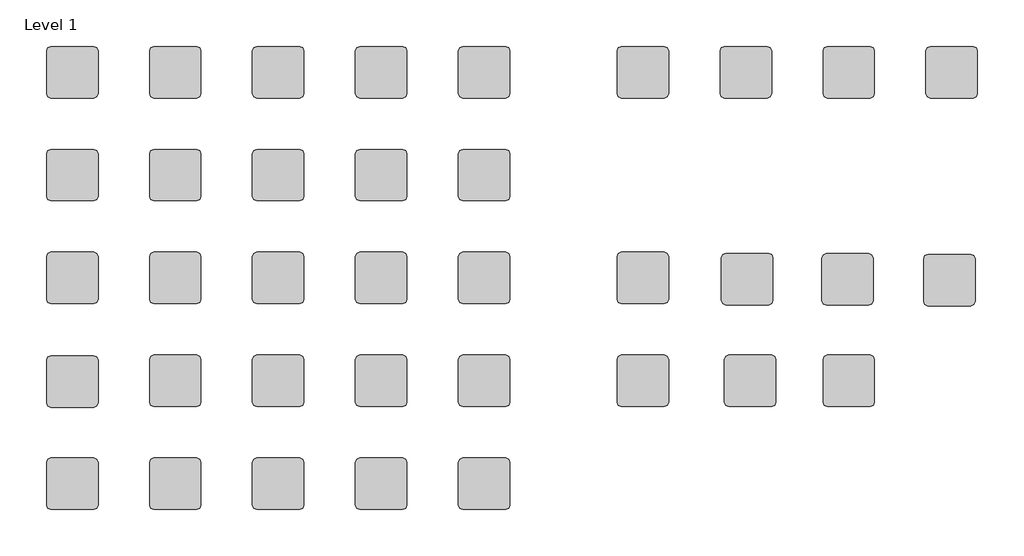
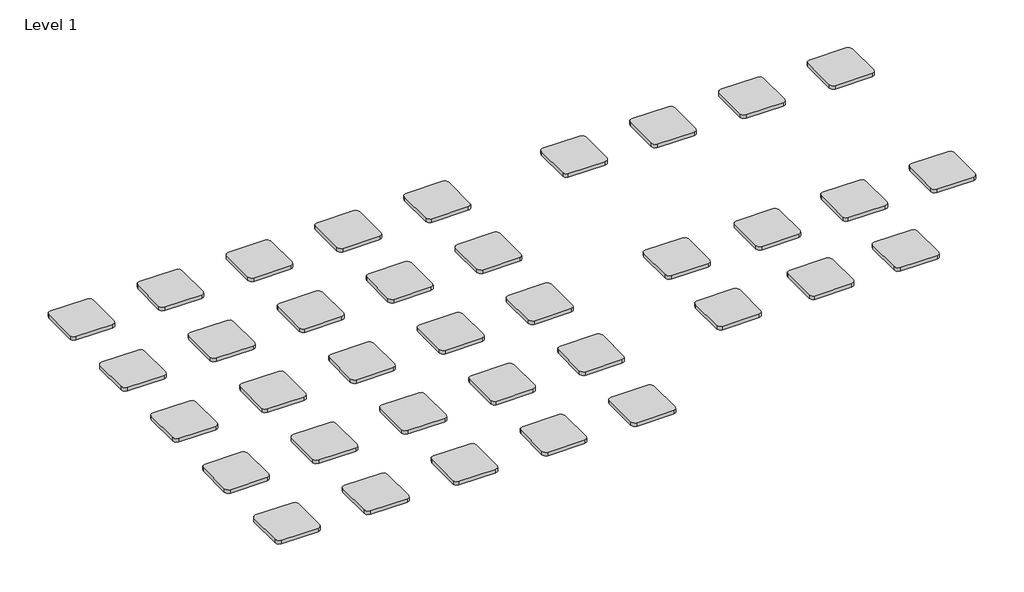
# One storey: 36 proxies.
"""IFC4 building model written with IfcOpenShell, lengths in millimetres."""

from ifc_helpers import new_model, si_unit, origin, place, context, project, spatial, transform, mapped, element, save
from components import finish_host1_finish_host_6c8288fe, finish_host10_finish_host_a3397b89, finish_host11_finish_host_3af49a93, finish_host12_finish_host_35fb9fcd, finish_host13_finish_host_149cf516, finish_host14_finish_host_65f983b4, finish_host15_finish_host_9cf1034e, finish_host16_finish_host_6ca5a889, finish_host17_finish_host_9b003aed, finish_host18_finish_host_26ebec59, finish_host19_finish_host_efa92566, finish_host2_finish_host_9f574f8e, finish_host20_finish_host_8dbecde8, finish_host21_finish_host_b409f199, finish_host22_finish_host_cf7aacde, finish_host23_finish_host_5e606281, finish_host24_finish_host_937658bf, finish_host25_finish_host_878b78e8, finish_host26_finish_host_fe2e111e, finish_host27_finish_host_97b71195, finish_host28_finish_host_5dfcda00, finish_host29_finish_host_c5cb782f, finish_host3_finish_host_6cfe361c, finish_host31_finish_host_bcdf27ec, finish_host34_finish_host_d116e8a5, finish_host35_finish_host_9bd3dcf6, finish_host36_finish_host_0f730452, finish_host4_finish_host_66b54ad6, finish_host5_finish_host_d23c74cd, finish_host6_finish_host_95f67b8d, finish_host8_finish_host_4df69d28, finish_host9_finish_host_c5e91da6

model = new_model("IFC4")

# Units and contexts
model_context = context("Model", 3, world=origin())
ifc_project = project(units=[si_unit("LENGTHUNIT", "METRE", prefix="MILLI")], contexts=[model_context])

# Site, building, storey
site = spatial("IfcSite", under=ifc_project)
building = spatial("IfcBuilding", under=site)
storey = spatial("IfcBuildingStorey", under=building, Name="Level 1", Elevation=0.0)

# Proxies
placement = place(None, origin())
finish_host1_finish_host_shape = finish_host1_finish_host_6c8288fe(model_context)
element("IfcBuildingElementProxy", 1, Name="Finish Host1 : Finish Host", ObjectType="Finish Host1 : Finish Host", at=placement, inside=storey, context=model_context, shape_type="MappedRepresentation", body=[
    mapped(finish_host1_finish_host_shape, transform((0.0, -304.8, 0.0), x_axis=(1.0, 0.0, 0.0), y_axis=(0.0, 1.0, 0.0), z_axis=(0.0, 0.0, 1.0))),
])
finish_host10_finish_host_shape = finish_host10_finish_host_a3397b89(model_context)
element("IfcBuildingElementProxy", 2, Name="Finish Host10 : Finish Host", ObjectType="Finish Host10 : Finish Host", at=placement, inside=storey, context=model_context, shape_type="MappedRepresentation", body=[
    mapped(finish_host10_finish_host_shape, transform((0.0, -304.8, 0.0), x_axis=(1.0, 0.0, 0.0), y_axis=(0.0, 1.0, 0.0), z_axis=(0.0, 0.0, 1.0))),
])
finish_host11_finish_host_shape = finish_host11_finish_host_3af49a93(model_context)
element("IfcBuildingElementProxy", 3, Name="Finish Host11 : Finish Host", ObjectType="Finish Host11 : Finish Host", at=placement, inside=storey, context=model_context, shape_type="MappedRepresentation", body=[
    mapped(finish_host11_finish_host_shape, transform((0.0, -304.8, 0.0), x_axis=(1.0, 0.0, 0.0), y_axis=(0.0, 1.0, 0.0), z_axis=(0.0, 0.0, 1.0))),
])
finish_host12_finish_host_shape = finish_host12_finish_host_35fb9fcd(model_context)
element("IfcBuildingElementProxy", 4, Name="Finish Host12 : Finish Host", ObjectType="Finish Host12 : Finish Host", at=placement, inside=storey, context=model_context, shape_type="MappedRepresentation", body=[
    mapped(finish_host12_finish_host_shape, transform((0.0, -304.8, 0.0), x_axis=(1.0, 0.0, 0.0), y_axis=(0.0, 1.0, 0.0), z_axis=(0.0, 0.0, 1.0))),
])
finish_host13_finish_host_shape = finish_host13_finish_host_149cf516(model_context)
element("IfcBuildingElementProxy", 5, Name="Finish Host13 : Finish Host", ObjectType="Finish Host13 : Finish Host", at=placement, inside=storey, context=model_context, shape_type="MappedRepresentation", body=[
    mapped(finish_host13_finish_host_shape, transform((0.0, -304.8, 0.0), x_axis=(1.0, 0.0, 0.0), y_axis=(0.0, 1.0, 0.0), z_axis=(0.0, 0.0, 1.0))),
])
finish_host14_finish_host_shape = finish_host14_finish_host_65f983b4(model_context)
element("IfcBuildingElementProxy", 6, Name="Finish Host14 : Finish Host", ObjectType="Finish Host14 : Finish Host", at=placement, inside=storey, context=model_context, shape_type="MappedRepresentation", body=[
    mapped(finish_host14_finish_host_shape, transform((0.0, -304.8, 0.0), x_axis=(1.0, 0.0, 0.0), y_axis=(0.0, 1.0, 0.0), z_axis=(0.0, 0.0, 1.0))),
])
finish_host15_finish_host_shape = finish_host15_finish_host_9cf1034e(model_context)
element("IfcBuildingElementProxy", 7, Name="Finish Host15 : Finish Host", ObjectType="Finish Host15 : Finish Host", at=placement, inside=storey, context=model_context, shape_type="MappedRepresentation", body=[
    mapped(finish_host15_finish_host_shape, transform((0.0, -304.8, 0.0), x_axis=(1.0, 0.0, 0.0), y_axis=(0.0, 1.0, 0.0), z_axis=(0.0, 0.0, 1.0))),
])
finish_host16_finish_host_shape = finish_host16_finish_host_6ca5a889(model_context)
element("IfcBuildingElementProxy", 8, Name="Finish Host16 : Finish Host", ObjectType="Finish Host16 : Finish Host", at=placement, inside=storey, context=model_context, shape_type="MappedRepresentation", body=[
    mapped(finish_host16_finish_host_shape, transform((5192.8305006, 291.3555964, 0.0), x_axis=(1.0, 0.0, 0.0), y_axis=(0.0, 1.0, 0.0), z_axis=(0.0, 0.0, 1.0))),
])
finish_host17_finish_host_shape = finish_host17_finish_host_9b003aed(model_context)
element("IfcBuildingElementProxy", 9, Name="Finish Host17 : Finish Host", ObjectType="Finish Host17 : Finish Host", at=placement, inside=storey, context=model_context, shape_type="MappedRepresentation", body=[
    mapped(finish_host17_finish_host_shape, transform((0.0, -304.8, 0.0), x_axis=(1.0, 0.0, 0.0), y_axis=(0.0, 1.0, 0.0), z_axis=(0.0, 0.0, 1.0))),
])
finish_host18_finish_host_shape = finish_host18_finish_host_26ebec59(model_context)
element("IfcBuildingElementProxy", 10, Name="Finish Host18 : Finish Host", ObjectType="Finish Host18 : Finish Host", at=placement, inside=storey, context=model_context, shape_type="MappedRepresentation", body=[
    mapped(finish_host18_finish_host_shape, transform((0.0, -304.8, 0.0), x_axis=(1.0, 0.0, 0.0), y_axis=(0.0, 1.0, 0.0), z_axis=(0.0, 0.0, 1.0))),
])
finish_host19_finish_host_shape = finish_host19_finish_host_efa92566(model_context)
element("IfcBuildingElementProxy", 11, Name="Finish Host19 : Finish Host", ObjectType="Finish Host19 : Finish Host", at=placement, inside=storey, context=model_context, shape_type="MappedRepresentation", body=[
    mapped(finish_host19_finish_host_shape, transform((0.0, -304.8, 0.0), x_axis=(1.0, 0.0, 0.0), y_axis=(0.0, 1.0, 0.0), z_axis=(0.0, 0.0, 1.0))),
])
finish_host2_finish_host_shape = finish_host2_finish_host_9f574f8e(model_context)
element("IfcBuildingElementProxy", 12, Name="Finish Host2 : Finish Host", ObjectType="Finish Host2 : Finish Host", at=placement, inside=storey, context=model_context, shape_type="MappedRepresentation", body=[
    mapped(finish_host2_finish_host_shape, transform((0.0, -304.8, 0.0), x_axis=(1.0, 0.0, 0.0), y_axis=(0.0, 1.0, 0.0), z_axis=(0.0, 0.0, 1.0))),
])
finish_host20_finish_host_shape = finish_host20_finish_host_8dbecde8(model_context)
element("IfcBuildingElementProxy", 13, Name="Finish Host20 : Finish Host", ObjectType="Finish Host20 : Finish Host", at=placement, inside=storey, context=model_context, shape_type="MappedRepresentation", body=[
    mapped(finish_host20_finish_host_shape, transform((0.0, -304.8, 0.0), x_axis=(1.0, 0.0, 0.0), y_axis=(0.0, 1.0, 0.0), z_axis=(0.0, 0.0, 1.0))),
])
finish_host21_finish_host_shape = finish_host21_finish_host_b409f199(model_context)
element("IfcBuildingElementProxy", 14, Name="Finish Host21 : Finish Host", ObjectType="Finish Host21 : Finish Host", at=placement, inside=storey, context=model_context, shape_type="MappedRepresentation", body=[
    mapped(finish_host21_finish_host_shape, transform((0.0, -304.8, 0.0), x_axis=(1.0, 0.0, 0.0), y_axis=(0.0, 1.0, 0.0), z_axis=(0.0, 0.0, 1.0))),
])
finish_host22_finish_host_shape = finish_host22_finish_host_cf7aacde(model_context)
element("IfcBuildingElementProxy", 15, Name="Finish Host22 : Finish Host", ObjectType="Finish Host22 : Finish Host", at=placement, inside=storey, context=model_context, shape_type="MappedRepresentation", body=[
    mapped(finish_host22_finish_host_shape, transform((0.0, -304.8, 0.0), x_axis=(1.0, 0.0, 0.0), y_axis=(0.0, 1.0, 0.0), z_axis=(0.0, 0.0, 1.0))),
])
finish_host23_finish_host_shape = finish_host23_finish_host_5e606281(model_context)
element("IfcBuildingElementProxy", 16, Name="Finish Host23 : Finish Host", ObjectType="Finish Host23 : Finish Host", at=placement, inside=storey, context=model_context, shape_type="MappedRepresentation", body=[
    mapped(finish_host23_finish_host_shape, transform((0.0, -304.8, 0.0), x_axis=(1.0, 0.0, 0.0), y_axis=(0.0, 1.0, 0.0), z_axis=(0.0, 0.0, 1.0))),
])
finish_host24_finish_host_shape = finish_host24_finish_host_937658bf(model_context)
element("IfcBuildingElementProxy", 17, Name="Finish Host24 : Finish Host", ObjectType="Finish Host24 : Finish Host", at=placement, inside=storey, context=model_context, shape_type="MappedRepresentation", body=[
    mapped(finish_host24_finish_host_shape, transform((0.0, -304.8, 0.0), x_axis=(1.0, 0.0, 0.0), y_axis=(0.0, 1.0, 0.0), z_axis=(0.0, 0.0, 1.0))),
])
finish_host25_finish_host_shape = finish_host25_finish_host_878b78e8(model_context)
element("IfcBuildingElementProxy", 18, Name="Finish Host25 : Finish Host", ObjectType="Finish Host25 : Finish Host", at=placement, inside=storey, context=model_context, shape_type="MappedRepresentation", body=[
    mapped(finish_host25_finish_host_shape, transform((0.0, -304.8, 0.0), x_axis=(1.0, 0.0, 0.0), y_axis=(0.0, 1.0, 0.0), z_axis=(0.0, 0.0, 1.0))),
])
finish_host26_finish_host_shape = finish_host26_finish_host_fe2e111e(model_context)
element("IfcBuildingElementProxy", 19, Name="Finish Host26 : Finish Host", ObjectType="Finish Host26 : Finish Host", at=placement, inside=storey, context=model_context, shape_type="MappedRepresentation", body=[
    mapped(finish_host26_finish_host_shape, transform((0.0, -304.8, 0.0), x_axis=(1.0, 0.0, 0.0), y_axis=(0.0, 1.0, 0.0), z_axis=(0.0, 0.0, 1.0))),
])
finish_host27_finish_host_shape = finish_host27_finish_host_97b71195(model_context)
element("IfcBuildingElementProxy", 20, Name="Finish Host27 : Finish Host", ObjectType="Finish Host27 : Finish Host", at=placement, inside=storey, context=model_context, shape_type="MappedRepresentation", body=[
    mapped(finish_host27_finish_host_shape, transform((0.0, -304.8, 0.0), x_axis=(1.0, 0.0, 0.0), y_axis=(0.0, 1.0, 0.0), z_axis=(0.0, 0.0, 1.0))),
])
finish_host28_finish_host_shape = finish_host28_finish_host_5dfcda00(model_context)
element("IfcBuildingElementProxy", 21, Name="Finish Host28 : Finish Host", ObjectType="Finish Host28 : Finish Host", at=placement, inside=storey, context=model_context, shape_type="MappedRepresentation", body=[
    mapped(finish_host28_finish_host_shape, transform((0.0, -304.8, 0.0), x_axis=(1.0, 0.0, 0.0), y_axis=(0.0, 1.0, 0.0), z_axis=(0.0, 0.0, 1.0))),
])
finish_host29_finish_host_shape = finish_host29_finish_host_c5cb782f(model_context)
element("IfcBuildingElementProxy", 22, Name="Finish Host29 : Finish Host", ObjectType="Finish Host29 : Finish Host", at=placement, inside=storey, context=model_context, shape_type="MappedRepresentation", body=[
    mapped(finish_host29_finish_host_shape, transform((0.0, -304.8, 0.0), x_axis=(1.0, 0.0, 0.0), y_axis=(0.0, 1.0, 0.0), z_axis=(0.0, 0.0, 1.0))),
])
finish_host3_finish_host_shape = finish_host3_finish_host_6cfe361c(model_context)
element("IfcBuildingElementProxy", 23, Name="Finish Host3 : Finish Host", ObjectType="Finish Host3 : Finish Host", at=placement, inside=storey, context=model_context, shape_type="MappedRepresentation", body=[
    mapped(finish_host3_finish_host_shape, transform((0.0, -304.8, 0.0), x_axis=(1.0, 0.0, 0.0), y_axis=(0.0, 1.0, 0.0), z_axis=(0.0, 0.0, 1.0))),
])
element("IfcBuildingElementProxy", 24, Name="Finish Host30 : Finish Host", ObjectType="Finish Host30 : Finish Host", at=placement, inside=storey, context=model_context, shape_type="MappedRepresentation", body=[
    mapped(finish_host13_finish_host_shape, transform((2159.0, -304.8, 0.0), x_axis=(1.0, 0.0, 0.0), y_axis=(0.0, 1.0, 0.0), z_axis=(0.0, 0.0, 1.0))),
])
finish_host31_finish_host_shape = finish_host31_finish_host_bcdf27ec(model_context)
element("IfcBuildingElementProxy", 25, Name="Finish Host31 : Finish Host", ObjectType="Finish Host31 : Finish Host", at=placement, inside=storey, context=model_context, shape_type="MappedRepresentation", body=[
    mapped(finish_host31_finish_host_shape, transform((3386.4706038, -921.387216, 0.0), x_axis=(1.0, 0.0, 0.0), y_axis=(0.0, 1.0, 0.0), z_axis=(0.0, 0.0, 1.0))),
])
element("IfcBuildingElementProxy", 26, Name="Finish Host32 : Finish Host", ObjectType="Finish Host32 : Finish Host", at=placement, inside=storey, context=model_context, shape_type="MappedRepresentation", body=[
    mapped(finish_host10_finish_host_shape, transform((2151.5989837, -923.0384927, 0.0), x_axis=(1.0, 0.0, 0.0), y_axis=(0.0, 1.0, 0.0), z_axis=(0.0, 0.0, 1.0))),
])
element("IfcBuildingElementProxy", 27, Name="Finish Host33 : Finish Host", ObjectType="Finish Host33 : Finish Host", at=placement, inside=storey, context=model_context, shape_type="MappedRepresentation", body=[
    mapped(finish_host16_finish_host_shape, transform((0.6463591, -308.3751355, 0.0), x_axis=(1.0, 0.0, 0.0), y_axis=(0.0, 1.0, 0.0), z_axis=(0.0, 0.0, 1.0))),
])
finish_host34_finish_host_shape = finish_host34_finish_host_d116e8a5(model_context)
element("IfcBuildingElementProxy", 28, Name="Finish Host34 : Finish Host", ObjectType="Finish Host34 : Finish Host", at=placement, inside=storey, context=model_context, shape_type="MappedRepresentation", body=[
    mapped(finish_host34_finish_host_shape, transform((0.0, 0.0, 0.0), x_axis=(1.0, 0.0, 0.0), y_axis=(0.0, 1.0, 0.0), z_axis=(0.0, 0.0, 1.0))),
])
finish_host35_finish_host_shape = finish_host35_finish_host_9bd3dcf6(model_context)
element("IfcBuildingElementProxy", 29, Name="Finish Host35 : Finish Host", ObjectType="Finish Host35 : Finish Host", at=placement, inside=storey, context=model_context, shape_type="MappedRepresentation", body=[
    mapped(finish_host35_finish_host_shape, transform((0.0, 0.0, 0.0), x_axis=(1.0, 0.0, 0.0), y_axis=(0.0, 1.0, 0.0), z_axis=(0.0, 0.0, 1.0))),
])
finish_host36_finish_host_shape = finish_host36_finish_host_0f730452(model_context)
element("IfcBuildingElementProxy", 30, Name="Finish Host36 : Finish Host", ObjectType="Finish Host36 : Finish Host", at=placement, inside=storey, context=model_context, shape_type="MappedRepresentation", body=[
    mapped(finish_host36_finish_host_shape, transform((0.0, 0.0, 0.0), x_axis=(1.0, 0.0, 0.0), y_axis=(0.0, 1.0, 0.0), z_axis=(0.0, 0.0, 1.0))),
])
finish_host4_finish_host_shape = finish_host4_finish_host_66b54ad6(model_context)
element("IfcBuildingElementProxy", 31, Name="Finish Host4 : Finish Host", ObjectType="Finish Host4 : Finish Host", at=placement, inside=storey, context=model_context, shape_type="MappedRepresentation", body=[
    mapped(finish_host4_finish_host_shape, transform((0.0, -304.8, 0.0), x_axis=(1.0, 0.0, 0.0), y_axis=(0.0, 1.0, 0.0), z_axis=(0.0, 0.0, 1.0))),
])
finish_host5_finish_host_shape = finish_host5_finish_host_d23c74cd(model_context)
element("IfcBuildingElementProxy", 32, Name="Finish Host5 : Finish Host", ObjectType="Finish Host5 : Finish Host", at=placement, inside=storey, context=model_context, shape_type="MappedRepresentation", body=[
    mapped(finish_host5_finish_host_shape, transform((0.0, -304.8, 0.0), x_axis=(1.0, 0.0, 0.0), y_axis=(0.0, 1.0, 0.0), z_axis=(0.0, 0.0, 1.0))),
])
finish_host6_finish_host_shape = finish_host6_finish_host_95f67b8d(model_context)
element("IfcBuildingElementProxy", 33, Name="Finish Host6 : Finish Host", ObjectType="Finish Host6 : Finish Host", at=placement, inside=storey, context=model_context, shape_type="MappedRepresentation", body=[
    mapped(finish_host6_finish_host_shape, transform((0.0, -304.8, 0.0), x_axis=(1.0, 0.0, 0.0), y_axis=(0.0, 1.0, 0.0), z_axis=(0.0, 0.0, 1.0))),
])
element("IfcBuildingElementProxy", 34, Name="Finish Host7 : Finish Host", ObjectType="Finish Host7 : Finish Host", at=placement, inside=storey, context=model_context, shape_type="MappedRepresentation", body=[
    mapped(finish_host31_finish_host_shape, transform((0.0, -304.8, 0.0), x_axis=(1.0, 0.0, 0.0), y_axis=(0.0, 1.0, 0.0), z_axis=(0.0, 0.0, 1.0))),
])
finish_host8_finish_host_shape = finish_host8_finish_host_4df69d28(model_context)
element("IfcBuildingElementProxy", 35, Name="Finish Host8 : Finish Host", ObjectType="Finish Host8 : Finish Host", at=placement, inside=storey, context=model_context, shape_type="MappedRepresentation", body=[
    mapped(finish_host8_finish_host_shape, transform((0.0, -304.8, 0.0), x_axis=(1.0, 0.0, 0.0), y_axis=(0.0, 1.0, 0.0), z_axis=(0.0, 0.0, 1.0))),
])
finish_host9_finish_host_shape = finish_host9_finish_host_c5e91da6(model_context)
element("IfcBuildingElementProxy", 36, Name="Finish Host9 : Finish Host", ObjectType="Finish Host9 : Finish Host", at=placement, inside=storey, context=model_context, shape_type="MappedRepresentation", body=[
    mapped(finish_host9_finish_host_shape, transform((0.0, -304.8, 0.0), x_axis=(1.0, 0.0, 0.0), y_axis=(0.0, 1.0, 0.0), z_axis=(0.0, 0.0, 1.0))),
])

save(model, "model.ifc")
